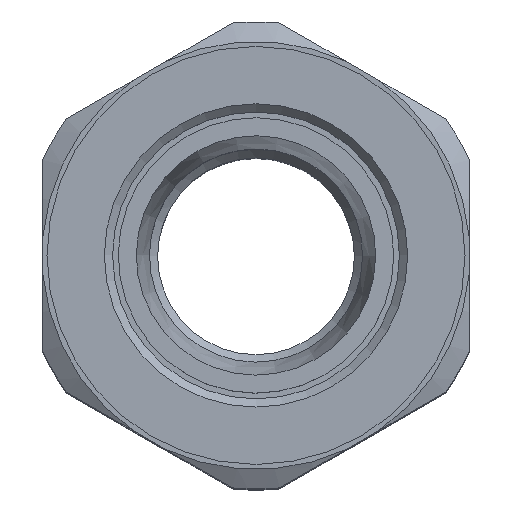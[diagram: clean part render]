
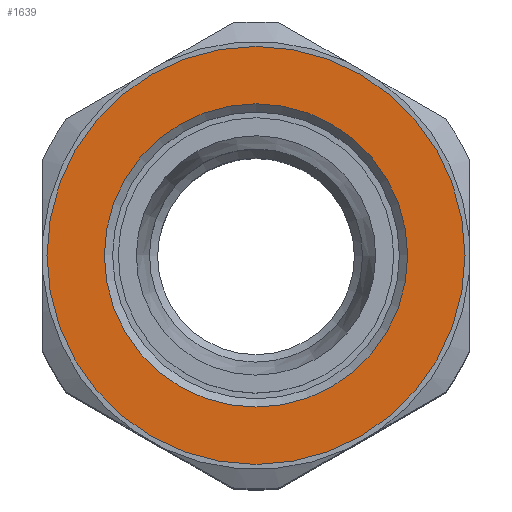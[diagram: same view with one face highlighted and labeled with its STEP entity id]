
A CAD part, top view. The second image highlights one B-rep face of the part: STEP entity #1639.
In plain terms, the highlighted planar face has unit normal (0, 0, 1).
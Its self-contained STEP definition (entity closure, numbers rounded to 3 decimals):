
#1588=CARTESIAN_POINT('',(9.25,0.,38.));
#1589=VERTEX_POINT('',#1588);
#1590=CARTESIAN_POINT('',(0.,0.,38.));
#1591=DIRECTION('',(0.0,0.0,1.0));
#1592=DIRECTION('',(-1.0,0.0,0.0));
#1593=AXIS2_PLACEMENT_3D('',#1590,#1591,#1592);
#1594=CIRCLE('',#1593,9.25);
#1595=EDGE_CURVE('',#1589,#1589,#1594,.T.);
#1620=CARTESIAN_POINT('',(0.,0.,38.));
#1621=DIRECTION('',(0.0,0.0,1.0));
#1622=DIRECTION('',(1.0,0.0,0.0));
#1623=AXIS2_PLACEMENT_3D('',#1620,#1621,#1622);
#1624=PLANE('',#1623);
#1625=CARTESIAN_POINT('',(12.75,0.,38.));
#1626=VERTEX_POINT('',#1625);
#1627=CARTESIAN_POINT('',(0.,0.,38.));
#1628=DIRECTION('',(0.0,0.0,1.0));
#1629=DIRECTION('',(-1.0,0.0,0.0));
#1630=AXIS2_PLACEMENT_3D('',#1627,#1628,#1629);
#1631=CIRCLE('',#1630,12.75);
#1632=EDGE_CURVE('',#1626,#1626,#1631,.T.);
#1633=ORIENTED_EDGE('',*,*,#1632,.T.);
#1634=EDGE_LOOP('',(#1633));
#1635=FACE_OUTER_BOUND('',#1634,.T.);
#1636=ORIENTED_EDGE('',*,*,#1595,.F.);
#1637=EDGE_LOOP('',(#1636));
#1638=FACE_BOUND('',#1637,.T.);
#1639=ADVANCED_FACE('',(#1635,#1638),#1624,.T.);
